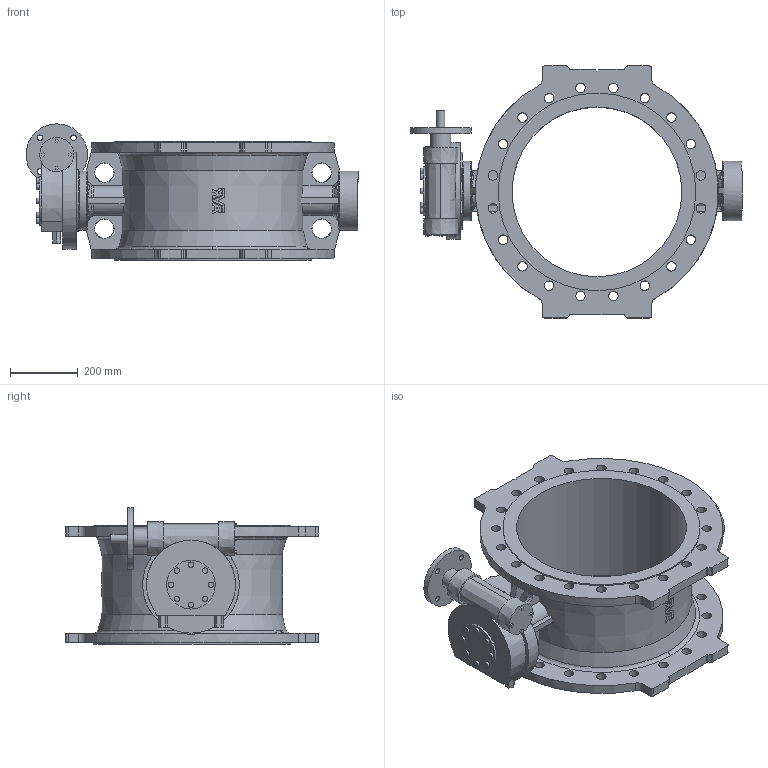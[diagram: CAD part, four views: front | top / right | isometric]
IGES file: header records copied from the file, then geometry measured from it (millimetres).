
Start section: SolidWorks IGES file using analytic representation for surfaces
Global section: file name: \\avksan2\techshare\PBM outline export from Enovia\O_756_102_DN500_1XX_AA0_igs.igs; native system: SolidWorks 2012; preprocessor: SolidWorks 2012; author: pbm; date: 160309.124850; units: millimetre
Bounding box: 977.5 x 742 x 401.4 mm (x, y, z)
Surface area: 2548460.8 mm2 (no closed solid volume)
Topology: 0 solids, 0 shells, 499 faces, 2770 edges, 2630 vertices
Faces by surface type: bspline 307, revolution 192
